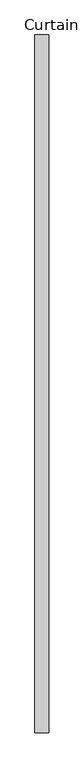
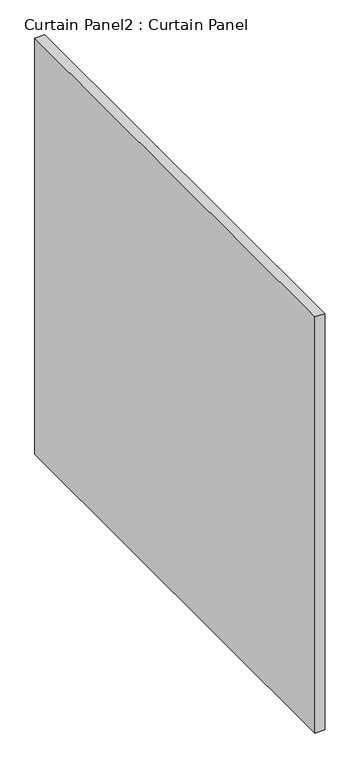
"""IFC4 building model written with IfcOpenShell, lengths in millimetres: plate geometry, Curtain Panel2 : Curtain Panel."""

from ifc_helpers import new_model, si_unit, frame, origin, place, context, project, spatial, polyline, outline, extrude, source, transform, mapped, element, save


def curtain_panel2_curtain_panel_d05ec8f4(model_context):
    return source(origin(), model_context, "Body", "SweptSolid", [
        extrude(outline(polyline([(-28721.5971749, 6428.1494331), (-28721.5971749, 7704.4994331), (-28696.1971749, 7704.4994331), (-28696.1971749, 6428.1494331), (-28721.5971749, 6428.1494331)])), frame((0.0, 0.0, 4876.8), z_axis=(0.0, 0.0, 1.0), x_axis=(1.0, 0.0, 0.0)), (0.0, 0.0, 1.0), 1155.7),
    ])


if __name__ == "__main__":
    model = new_model("IFC4")
    model_context = context("Model", 3, world=origin())
    ifc_project = project(units=[si_unit("LENGTHUNIT", "METRE", prefix="MILLI")], contexts=[model_context])
    site = spatial("IfcSite", under=ifc_project)
    building = spatial("IfcBuilding", under=site)
    placement = place(None, origin())
    curtain_panel2_curtain_panel_shape = curtain_panel2_curtain_panel_d05ec8f4(model_context)
    element("IfcPlate", 1, ObjectType="Curtain Panel2 : Curtain Panel", at=placement, inside=building, context=model_context, shape_type="MappedRepresentation", body=[
        mapped(curtain_panel2_curtain_panel_shape, transform((0.0, 0.0, 0.0), x_axis=(1.0, 0.0, 0.0), y_axis=(0.0, 1.0, 0.0), z_axis=(0.0, 0.0, 1.0))),
    ])
    save(model, "model.ifc")
